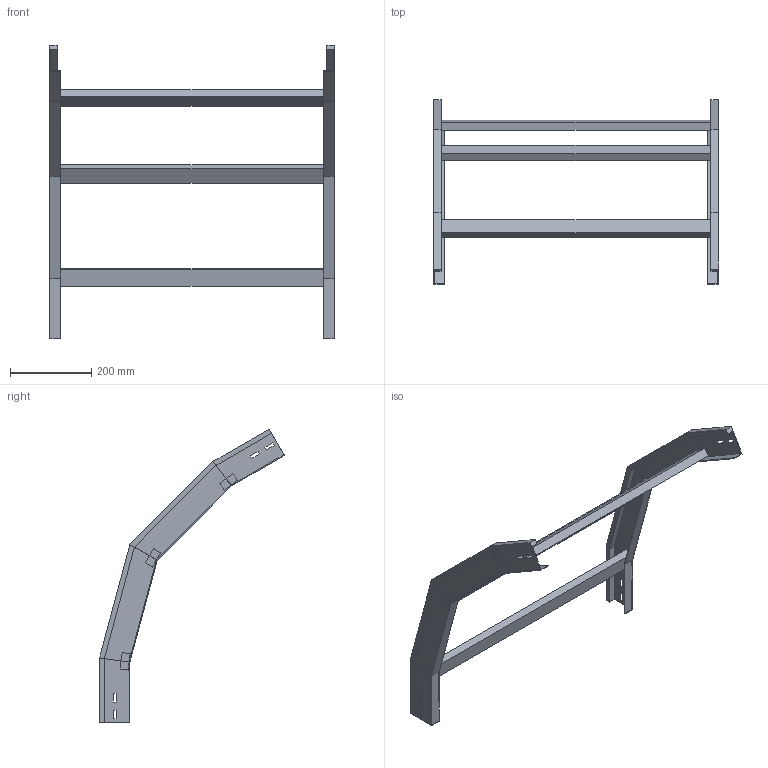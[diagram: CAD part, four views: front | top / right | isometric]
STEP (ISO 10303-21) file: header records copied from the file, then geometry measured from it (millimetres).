
FILE_DESCRIPTION (( 'STEP AP214' ), '1' );
FILE_NAME ('41B5C700.step', '2025-02-21T14:59:38', ( '' ), ( '' ), 'SwSTEP 2.0', 'SolidWorks 2023', '' );
FILE_SCHEMA (( 'AUTOMOTIVE_DESIGN' ));
Length unit declared in the file: millimetre
Products named in the file (3): 41B5C700; LONGH.DISCESA_60°_H75_R500; TRAVERSINO_700
Assembly tree (5 placements, depth 2):
  41B5C700
    LONGH.DISCESA_60°_H75_R500  x2
    TRAVERSINO_700  x3
Bounding box: 700 x 455.08 x 723.27 mm (x, y, z)
Volume: 2370339.7 mm3; surface area: 660706.3 mm2
Topology: 5 solids, 5 shells, 118 faces, 276 edges, 168 vertices
Faces by surface type: plane 118
Entity records: 1672 total; most frequent: CARTESIAN_POINT 276, ORIENTED_EDGE 264, DIRECTION 260, VECTOR 132, LINE 132, EDGE_CURVE 132, VERTEX_POINT 80, EDGE_LOOP 64
